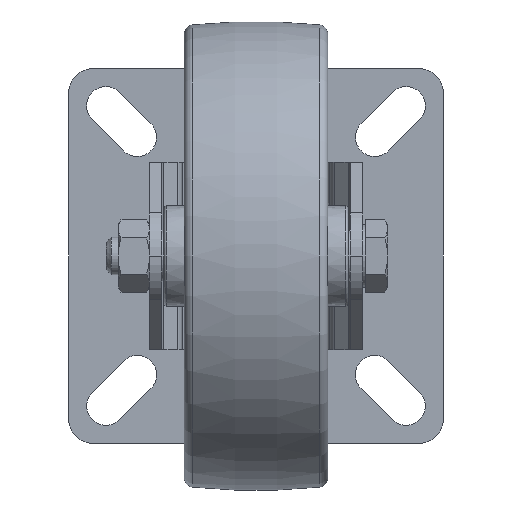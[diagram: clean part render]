
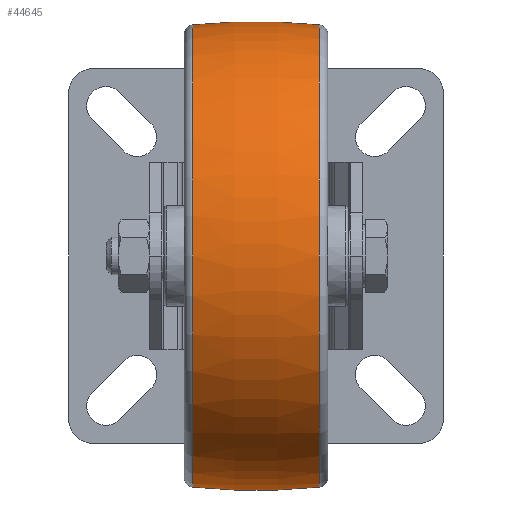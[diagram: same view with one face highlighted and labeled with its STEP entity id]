
A CAD part, front view. The second image highlights one B-rep face of the part: STEP entity #44645.
In plain terms, the highlighted toroidal (fillet/blend) face has major radius 62.5 mm and minor radius 100 mm.
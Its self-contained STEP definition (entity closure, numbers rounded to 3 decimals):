
#2128 = DIRECTION ( 'NONE',  ( 0., 0., 1. ) ) ;
#2132 = DIRECTION ( 'NONE',  ( -1., 0., 0. ) ) ;
#2163 = CARTESIAN_POINT ( 'NONE',  ( -10.152, 0., 0. ) ) ;
#2169 = DIRECTION ( 'NONE',  ( 0., 0., 1. ) ) ;
#2170 = DIRECTION ( 'NONE',  ( -1., 0., 0. ) ) ;
#2179 = CARTESIAN_POINT ( 'NONE',  ( 10.152, 0., 0. ) ) ;
#3701 = AXIS2_PLACEMENT_3D ( 'NONE', #47606, #47604, #47616 ) ;
#6891 = CIRCLE ( 'NONE', #30937, 100. ) ;
#6905 = CIRCLE ( 'NONE', #30942, 100. ) ;
#7016 = CIRCLE ( 'NONE', #31004, 36.983 ) ;
#7030 = CIRCLE ( 'NONE', #31001, 36.983 ) ;
#8779 = VERTEX_POINT ( 'NONE', #41430 ) ;
#8780 = VERTEX_POINT ( 'NONE', #41429 ) ;
#8782 = VERTEX_POINT ( 'NONE', #41426 ) ;
#8783 = VERTEX_POINT ( 'NONE', #41425 ) ;
#18396 = EDGE_CURVE ( 'NONE', #8779, #8782, #6891, .T. ) ;
#18403 = EDGE_CURVE ( 'NONE', #8780, #8783, #6905, .T. ) ;
#18711 = EDGE_CURVE ( 'NONE', #8779, #8780, #7030, .T. ) ;
#18715 = EDGE_CURVE ( 'NONE', #8782, #8783, #7016, .T. ) ;
#21760 = ORIENTED_EDGE ( 'NONE', *, *, #18403, .T. ) ;
#21762 = ORIENTED_EDGE ( 'NONE', *, *, #18715, .F. ) ;
#21793 = ORIENTED_EDGE ( 'NONE', *, *, #18711, .T. ) ;
#21795 = ORIENTED_EDGE ( 'NONE', *, *, #18396, .F. ) ;
#25967 = DIRECTION ( 'NONE',  ( 0., 0., -1. ) ) ;
#25969 = DIRECTION ( 'NONE',  ( 0., -1., 0. ) ) ;
#25972 = CARTESIAN_POINT ( 'NONE',  ( 0., 0., -62.5 ) ) ;
#30937 = AXIS2_PLACEMENT_3D ( 'NONE', #33348, #33161, #33158 ) ;
#30942 = AXIS2_PLACEMENT_3D ( 'NONE', #25972, #25969, #25967 ) ;
#31001 = AXIS2_PLACEMENT_3D ( 'NONE', #2179, #2170, #2169 ) ;
#31004 = AXIS2_PLACEMENT_3D ( 'NONE', #2163, #2132, #2128 ) ;
#31998 = EDGE_LOOP ( 'NONE', ( #21795, #21793, #21760, #21762 ) ) ;
#33158 = DIRECTION ( 'NONE',  ( 0., 0., 1. ) ) ;
#33161 = DIRECTION ( 'NONE',  ( 0., 1., 0. ) ) ;
#33348 = CARTESIAN_POINT ( 'NONE',  ( 0., 0., 62.5 ) ) ;
#34504 = FACE_OUTER_BOUND ( 'NONE', #31998, .T. ) ;
#34552 = TOROIDAL_SURFACE ( 'NONE', #3701, -62.5, 100. ) ;
#41425 = CARTESIAN_POINT ( 'NONE',  ( -10.152, 0., 36.983 ) ) ;
#41426 = CARTESIAN_POINT ( 'NONE',  ( -10.152, 0., -36.983 ) ) ;
#41429 = CARTESIAN_POINT ( 'NONE',  ( 10.152, 0., 36.983 ) ) ;
#41430 = CARTESIAN_POINT ( 'NONE',  ( 10.152, 0., -36.983 ) ) ;
#44645 = ADVANCED_FACE ( 'NONE', ( #34504 ), #34552, .T. ) ;
#47604 = DIRECTION ( 'NONE',  ( -1., 0., 0. ) ) ;
#47606 = CARTESIAN_POINT ( 'NONE',  ( 0., 0., 0. ) ) ;
#47616 = DIRECTION ( 'NONE',  ( 0., 0., 1. ) ) ;
